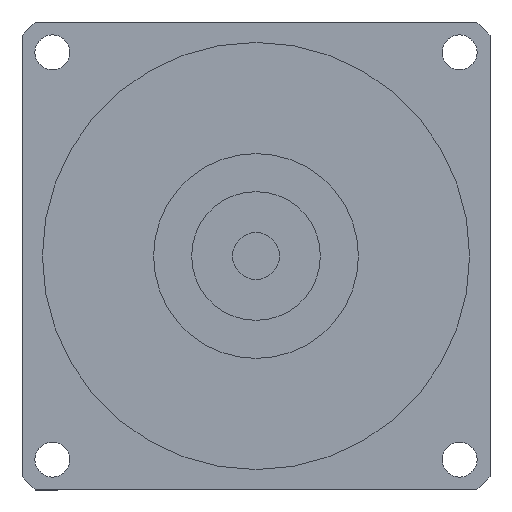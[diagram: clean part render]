
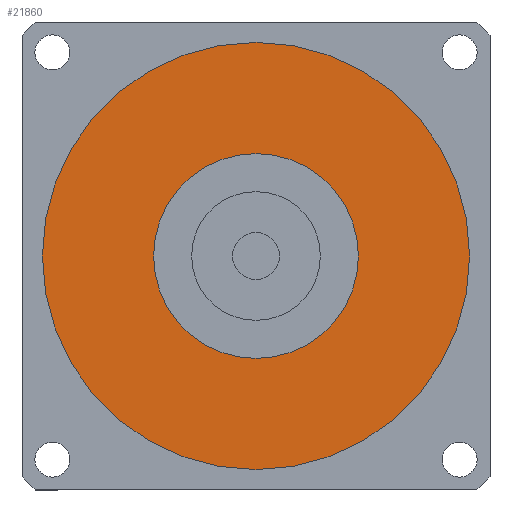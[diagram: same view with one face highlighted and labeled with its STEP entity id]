
A CAD part, left-side view. The second image highlights one B-rep face of the part: STEP entity #21860.
In plain terms, the highlighted planar face has unit normal (-1, 0, 0) as drawn and (0, 0, -1) by its records, which use the part's own axes.
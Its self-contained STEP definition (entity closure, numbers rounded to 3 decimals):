
#21280=CARTESIAN_POINT('',(-36.51,0.,-55.5));
#21290=VERTEX_POINT('',#21280);
#21380=CARTESIAN_POINT('',(36.51,0.,-55.5));
#21390=VERTEX_POINT('',#21380);
#21420=CARTESIAN_POINT('',(0.,0.,
-55.5));
#21430=DIRECTION('',(0.,0.,1.));
#21440=DIRECTION('',(0.,-1.,0.));
#21450=AXIS2_PLACEMENT_3D('',#21420,#21430,#21440);
#21460=CIRCLE('',#21450,36.51);
#21470=CARTESIAN_POINT('',(0.,-36.51,-55.5));
#21480=VERTEX_POINT('',#21470);
#21490=EDGE_CURVE('',#21480,#21390,#21460,.T.);
#21510=EDGE_CURVE('',#21290,#21480,#21460,.T.);
#21560=CARTESIAN_POINT('',(0.,0.,
-55.5));
#21570=DIRECTION('',(0.,0.,1.));
#21580=DIRECTION('',(-1.,0.,0.));
#21590=AXIS2_PLACEMENT_3D('',#21560,#21570,#21580);
#21600=PLANE('',#21590);
#21610=ORIENTED_EDGE('',*,*,#21490,.F.);
#21620=EDGE_CURVE('',#21390,#21290,#21460,.T.);
#21630=ORIENTED_EDGE('',*,*,#21620,.F.);
#21640=ORIENTED_EDGE('',*,*,#21510,.F.);
#21650=EDGE_LOOP('',(#21640,#21630,#21610));
#21660=FACE_OUTER_BOUND('',#21650,.T.);
#21670=CARTESIAN_POINT('',(0.,0.,
-55.5));
#21680=DIRECTION('',(0.,0.,1.));
#21690=DIRECTION('',(0.,-1.,0.));
#21700=AXIS2_PLACEMENT_3D('',#21670,#21680,#21690);
#21710=CIRCLE('',#21700,17.5);
#21720=CARTESIAN_POINT('',(17.5,0.,-55.5));
#21730=VERTEX_POINT('',#21720);
#21740=CARTESIAN_POINT('',(-17.5,0.,-55.5));
#21750=VERTEX_POINT('',#21740);
#21760=EDGE_CURVE('',#21730,#21750,#21710,.T.);
#21770=ORIENTED_EDGE('',*,*,#21760,.T.);
#21780=CARTESIAN_POINT('',(0.,-17.5,-55.5));
#21790=VERTEX_POINT('',#21780);
#21800=EDGE_CURVE('',#21790,#21730,#21710,.T.);
#21810=ORIENTED_EDGE('',*,*,#21800,.T.);
#21820=EDGE_CURVE('',#21750,#21790,#21710,.T.);
#21830=ORIENTED_EDGE('',*,*,#21820,.T.);
#21840=EDGE_LOOP('',(#21830,#21810,#21770));
#21850=FACE_BOUND('',#21840,.T.);
#21860=ADVANCED_FACE('',(#21660,#21850),#21600,.F.);
